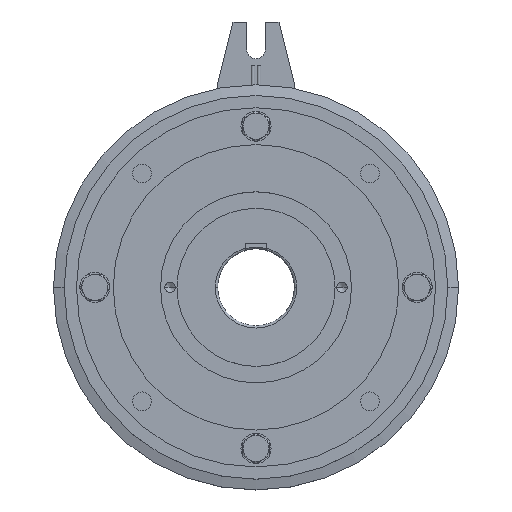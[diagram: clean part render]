
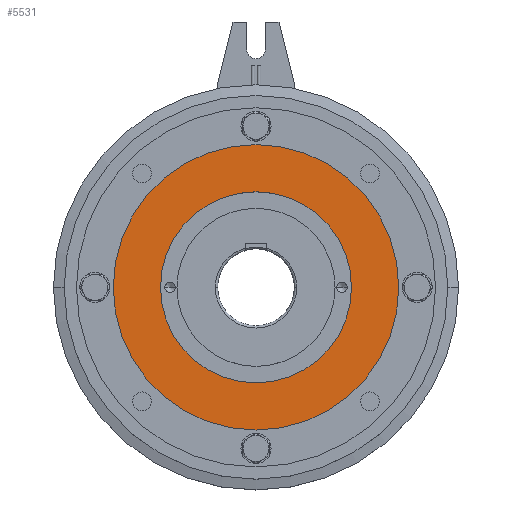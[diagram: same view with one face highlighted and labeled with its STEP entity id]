
A CAD part, top view. The second image highlights one B-rep face of the part: STEP entity #5531.
In plain terms, the highlighted planar face has unit normal (0, 0, 1).
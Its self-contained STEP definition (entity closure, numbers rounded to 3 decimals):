
#338 = EDGE_LOOP ( 'NONE', ( #6851, #6852 ) ) ;
#696 = AXIS2_PLACEMENT_3D ( 'NONE', #1165, #1166, #1167 ) ;
#698 = AXIS2_PLACEMENT_3D ( 'NONE', #1168, #1169, #1170 ) ;
#1165 = CARTESIAN_POINT ( 'NONE',  ( 0., 0., 64.5 ) ) ;
#1166 = DIRECTION ( 'NONE',  ( 0., 0., -1. ) ) ;
#1167 = DIRECTION ( 'NONE',  ( -1., 0., 0. ) ) ;
#1168 = CARTESIAN_POINT ( 'NONE',  ( 0., 0., 64.5 ) ) ;
#1169 = DIRECTION ( 'NONE',  ( 0., 0., 1. ) ) ;
#1170 = DIRECTION ( 'NONE',  ( 1., 0., 0. ) ) ;
#2017 = CIRCLE ( 'NONE', #696, 93. ) ;
#2018 = CIRCLE ( 'NONE', #698, 62.25 ) ;
#3583 = PLANE ( 'NONE',  #10553 ) ;
#3590 = CARTESIAN_POINT ( 'NONE',  ( 0., 0., 64.5 ) ) ;
#3591 = DIRECTION ( 'NONE',  ( 0., 0., 1. ) ) ;
#3592 = DIRECTION ( 'NONE',  ( 1., 0., 0. ) ) ;
#4126 = EDGE_CURVE ( 'NONE', #7768, #7769, #7393, .T. ) ;
#5137 = CARTESIAN_POINT ( 'NONE',  ( 0., 0., 64.5 ) ) ;
#5138 = DIRECTION ( 'NONE',  ( 0., 0., 1. ) ) ;
#5139 = DIRECTION ( 'NONE',  ( 1., 0., 0. ) ) ;
#5531 = ADVANCED_FACE ( 'NONE', ( #6309, #6313 ), #3583, .T. ) ;
#6309 = FACE_BOUND ( 'NONE', #338, .T. ) ;
#6313 = FACE_OUTER_BOUND ( 'NONE', #12617, .T. ) ;
#6851 = ORIENTED_EDGE ( 'NONE', *, *, #7966, .F. ) ;
#6852 = ORIENTED_EDGE ( 'NONE', *, *, #9225, .F. ) ;
#6853 = ORIENTED_EDGE ( 'NONE', *, *, #9224, .F. ) ;
#6854 = ORIENTED_EDGE ( 'NONE', *, *, #4126, .F. ) ;
#7393 = CIRCLE ( 'NONE', #8861, 93. ) ;
#7728 = VERTEX_POINT ( 'NONE', #13752 ) ;
#7729 = VERTEX_POINT ( 'NONE', #13753 ) ;
#7768 = VERTEX_POINT ( 'NONE', #13792 ) ;
#7769 = VERTEX_POINT ( 'NONE', #13793 ) ;
#7966 = EDGE_CURVE ( 'NONE', #7728, #7729, #13004, .T. ) ;
#8861 = AXIS2_PLACEMENT_3D ( 'NONE', #9575, #9574, #9573 ) ;
#9162 = AXIS2_PLACEMENT_3D ( 'NONE', #5137, #5138, #5139 ) ;
#9224 = EDGE_CURVE ( 'NONE', #7769, #7768, #2017, .T. ) ;
#9225 = EDGE_CURVE ( 'NONE', #7729, #7728, #2018, .T. ) ;
#9573 = DIRECTION ( 'NONE',  ( -1., 0., 0. ) ) ;
#9574 = DIRECTION ( 'NONE',  ( 0., 0., -1. ) ) ;
#9575 = CARTESIAN_POINT ( 'NONE',  ( 0., 0., 64.5 ) ) ;
#10553 = AXIS2_PLACEMENT_3D ( 'NONE', #3590, #3591, #3592 ) ;
#12617 = EDGE_LOOP ( 'NONE', ( #6853, #6854 ) ) ;
#13004 = CIRCLE ( 'NONE', #9162, 62.25 ) ;
#13752 = CARTESIAN_POINT ( 'NONE',  ( -62.25, 0., 64.5 ) ) ;
#13753 = CARTESIAN_POINT ( 'NONE',  ( 62.25, 0., 64.5 ) ) ;
#13792 = CARTESIAN_POINT ( 'NONE',  ( 93., 0., 64.5 ) ) ;
#13793 = CARTESIAN_POINT ( 'NONE',  ( -93., 0., 64.5 ) ) ;
